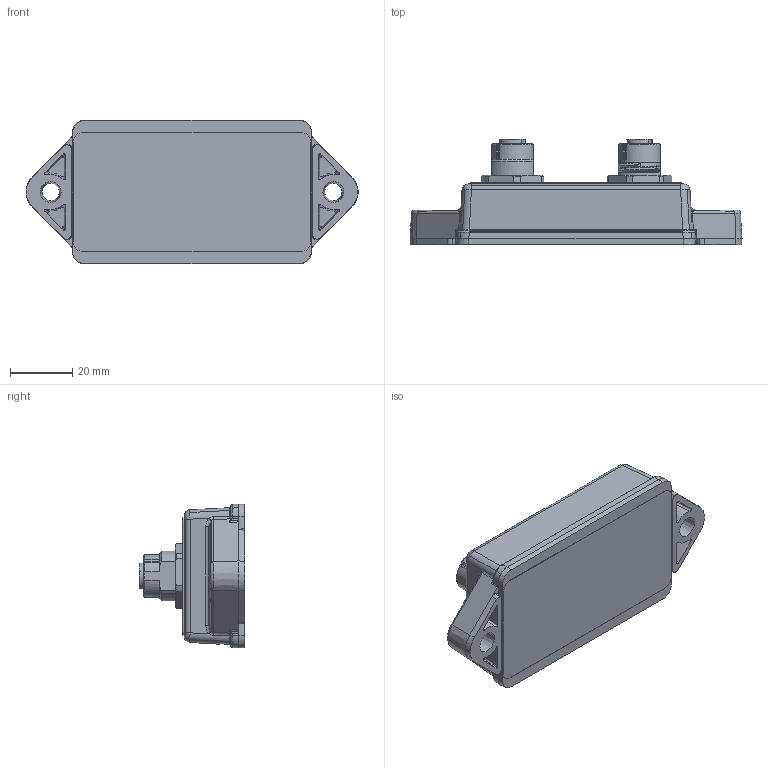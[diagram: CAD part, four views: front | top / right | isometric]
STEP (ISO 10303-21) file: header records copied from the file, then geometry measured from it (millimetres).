
FILE_DESCRIPTION (( 'STEP AP214' ), '1' );
FILE_NAME ('Generic STEP file.STEP', '2025-10-30T14:29:05', ( '' ), ( '' ), 'SwSTEP 2.0', 'SolidWorks 2023', '' );
FILE_SCHEMA (( 'AUTOMOTIVE_DESIGN' ));
Length unit declared in the file: inch
Products named in the file (15): PHO 1441752.ipt; 1441778 o ring.ipt; E-LOCTITE-E-30CL-50.ipt; 1441778 M12 5 pin.ipt; LBP-AX141530-01-R1.ipt; LBM-SERIAL-01-R2.ipt; MG-21005-01.iam; PHO 1441778.iam; PLP5-2-125.ipt; IJT-14010-01-R2.ipt; 1441817 M12 back nut.ipt; FG-AX141530.iam; LBM-AX141530-01-R1.ipt; IJT-14010-02-R1.ipt; Generic STEP file
Assembly tree (17 placements, depth 5):
  E-LOCTITE-E-30CL-50.ipt
  Generic STEP file
    FG-AX141530.iam
      MG-21005-01.iam
        IJT-14010-01-R2.ipt
        PHO 1441778.iam
          1441778 M12 5 pin.ipt
          1441778 o ring.ipt
        IJT-14010-02-R1.ipt
        PHO 1441752.ipt
        1441817 M12 back nut.ipt  x2
        LBM-SERIAL-01-R2.ipt  x2
        PLP5-2-125.ipt  x3
      LBP-AX141530-01-R1.ipt
      LBM-AX141530-01-R1.ipt
Bounding box: 106.32 x 33.88 x 46.04 mm (x, y, z)
Volume: 30605.7 mm3; surface area: 40915.4 mm2
Topology: 17 solids, 17 shells, 3083 faces, 8043 edges, 5242 vertices
Faces by surface type: plane 1800, bspline 542, cylinder 447, torus 154, cone 120, sphere 20
Entity records: 159049 total; most frequent: CARTESIAN_POINT 56295, ORIENTED_EDGE 15512, DIRECTION 12213, EDGE_CURVE 7756, LINE 5181, VECTOR 5181, VERTEX_POINT 5062, AXIS2_PLACEMENT_3D 3516
